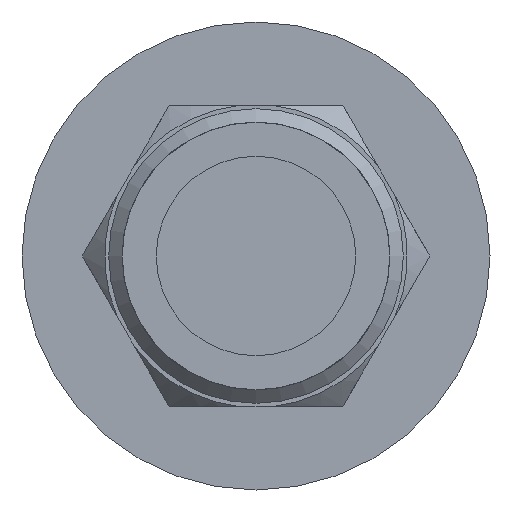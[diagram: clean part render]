
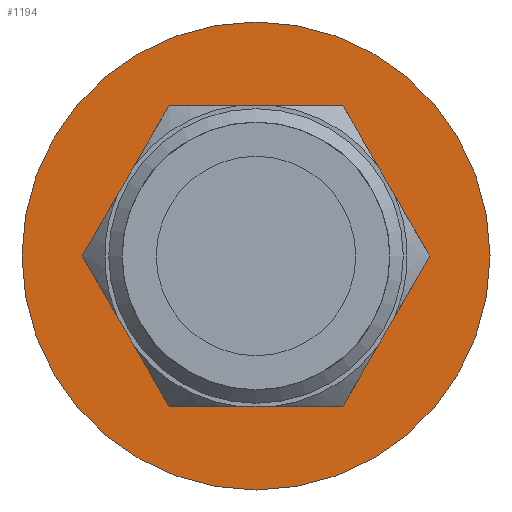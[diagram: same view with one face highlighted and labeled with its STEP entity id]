
A CAD part, front view. The second image highlights one B-rep face of the part: STEP entity #1194.
In plain terms, the highlighted planar face has unit normal (0, -1, 0).
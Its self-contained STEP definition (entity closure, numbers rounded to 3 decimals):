
#149 = CIRCLE ( 'NONE', #1240, 21. ) ;
#192 = EDGE_CURVE ( 'NONE', #971, #971, #910, .T. ) ;
#326 = FACE_OUTER_BOUND ( 'NONE', #648, .T. ) ;
#338 = DIRECTION ( 'NONE',  ( 0., 1., 0. ) ) ;
#528 = EDGE_CURVE ( 'NONE', #1593, #1593, #149, .T. ) ;
#532 = DIRECTION ( 'NONE',  ( 0., 0., 1. ) ) ;
#547 = CARTESIAN_POINT ( 'NONE',  ( 0., 232.5, 8.5 ) ) ;
#611 = ORIENTED_EDGE ( 'NONE', *, *, #528, .F. ) ;
#648 = EDGE_LOOP ( 'NONE', ( #611 ) ) ;
#704 = EDGE_LOOP ( 'NONE', ( #1591 ) ) ;
#828 = CARTESIAN_POINT ( 'NONE',  ( 0., 232.5, 21. ) ) ;
#910 = CIRCLE ( 'NONE', #1595, 8.5 ) ;
#938 = DIRECTION ( 'NONE',  ( 0., 0., 1. ) ) ;
#948 = FACE_BOUND ( 'NONE', #704, .T. ) ;
#971 = VERTEX_POINT ( 'NONE', #547 ) ;
#1194 = ADVANCED_FACE ( 'NONE', ( #948, #326 ), #1686, .F. ) ;
#1240 = AXIS2_PLACEMENT_3D ( 'NONE', #1276, #1449, #532 ) ;
#1276 = CARTESIAN_POINT ( 'NONE',  ( 0., 232.5, 0. ) ) ;
#1297 = CARTESIAN_POINT ( 'NONE',  ( 0., 232.5, 0. ) ) ;
#1449 = DIRECTION ( 'NONE',  ( 0., 1., 0. ) ) ;
#1579 = AXIS2_PLACEMENT_3D ( 'NONE', #1865, #338, #938 ) ;
#1591 = ORIENTED_EDGE ( 'NONE', *, *, #192, .F. ) ;
#1593 = VERTEX_POINT ( 'NONE', #828 ) ;
#1595 = AXIS2_PLACEMENT_3D ( 'NONE', #1297, #1612, #1767 ) ;
#1612 = DIRECTION ( 'NONE',  ( 0., -1., 0. ) ) ;
#1686 = PLANE ( 'NONE',  #1579 ) ;
#1767 = DIRECTION ( 'NONE',  ( 0., 0., 1. ) ) ;
#1865 = CARTESIAN_POINT ( 'NONE',  ( 0., 232.5, 0. ) ) ;
